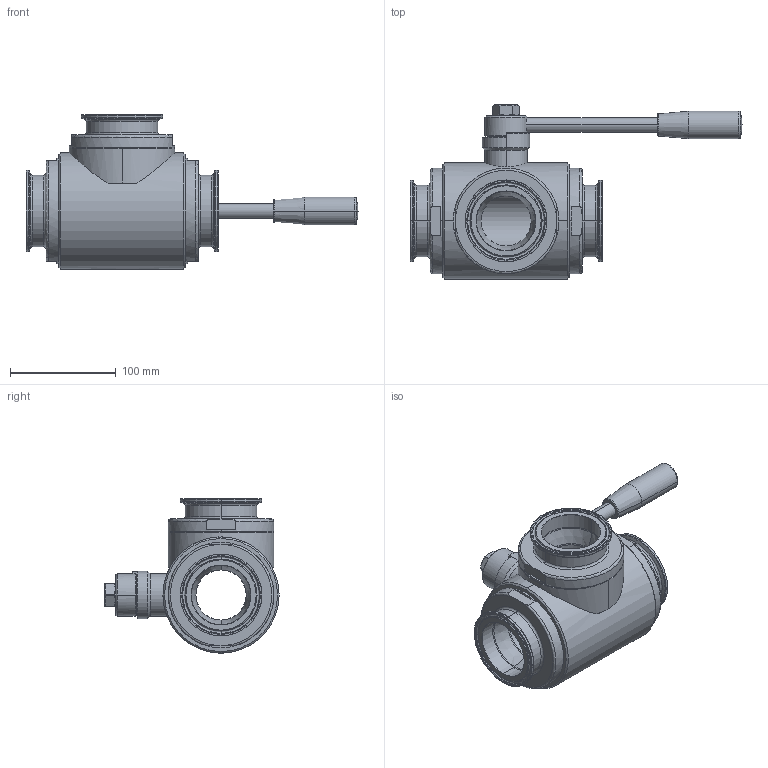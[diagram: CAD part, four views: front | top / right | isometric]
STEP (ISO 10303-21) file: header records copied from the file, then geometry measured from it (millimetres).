
FILE_DESCRIPTION((''),'2;1');
FILE_NAME('30013064110','2019-06-17T16:44:16',('UFFICIO TECNICO'),('CDM Tecnoconsulting'),'CREO PARAMETRIC BY PTC INC, 2019080','CREO PARAMETRIC BY PTC INC, 2019080','');
FILE_SCHEMA(());
Length unit declared in the file: millimetre
Products named in the file (1): 30013064110
Bounding box: 314.5 x 165 x 146 mm (x, y, z)
Surface area: 157485 mm2 (no closed solid volume)
Topology: 0 solids, 34 shells, 331 faces, 1235 edges, 927 vertices
Faces by surface type: cylinder 92, torus 76, cone 69, plane 67, bspline 25, sphere 2
Entity records: 22153 total; most frequent: CARTESIAN_POINT 12290, DIRECTION 1947, ORIENTED_EDGE 1896, EDGE_CURVE 1231, VERTEX_POINT 927, AXIS2_PLACEMENT_3D 737, VECTOR 473, LINE 473
